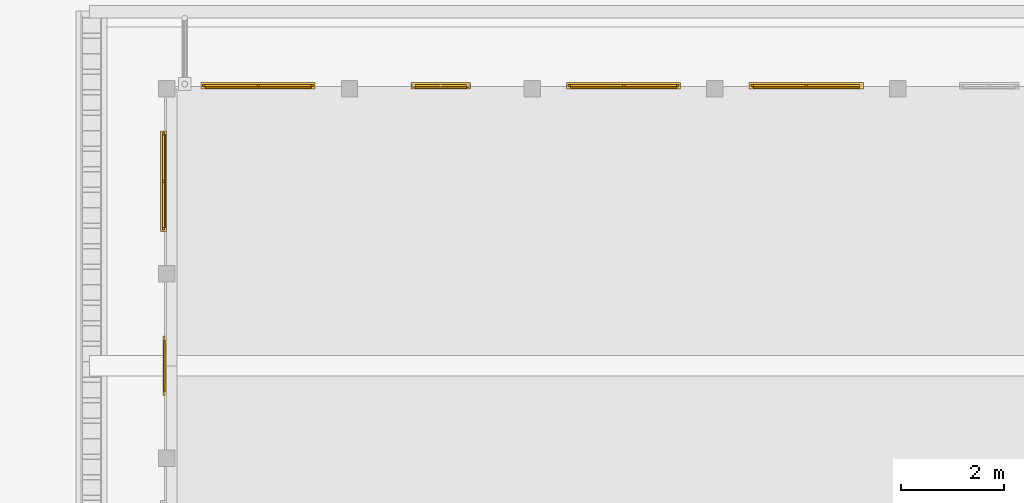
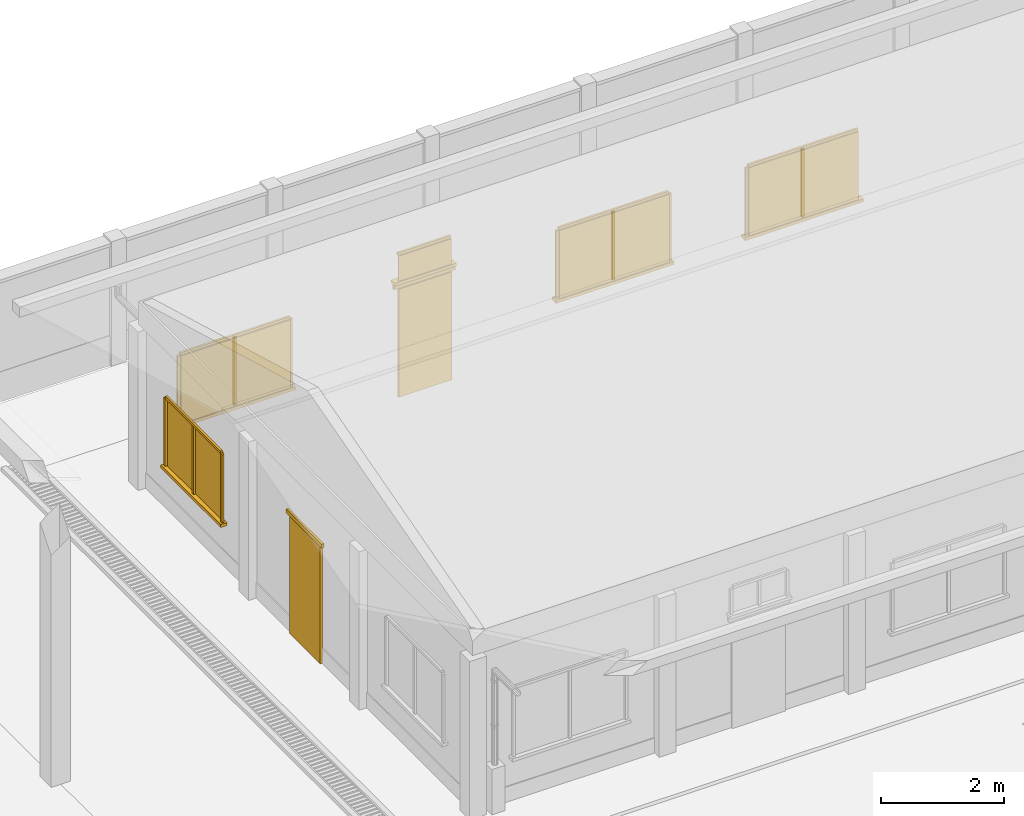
# One storey, part 62 of 166: 26 windows, 4 doors.
"""IFC2X3 building model written with IfcOpenShell, lengths in metres."""

from ifc_helpers import new_model, si_unit, origin, origin_with_axes, place, context, subcontext, project, spatial, faceted_brep, element, save


model = new_model("IFC2X3")

# Units and contexts
model_context = context("Model", 3, precision=1e-05, world=origin_with_axes())
body_context = subcontext(model_context, "Body", "Model", "MODEL_VIEW")
ifc_project = project(units=[si_unit("LENGTHUNIT", "METRE"), si_unit("AREAUNIT", "SQUARE_METRE"), si_unit("VOLUMEUNIT", "CUBIC_METRE"), si_unit("PLANEANGLEUNIT", "RADIAN")], contexts=[model_context])

# Site, building, storey
site_placement = place(None, origin_with_axes())
site = spatial("IfcSite", under=ifc_project, at=site_placement, Name="Predio Los Mangos - Morales, San Martín", CompositionType="ELEMENT")
building_placement = place(site_placement, origin())
building = spatial("IfcBuilding", under=site, at=building_placement, Name="Hogar de Refugio Temporal", CompositionType="ELEMENT")
storey_placement = place(building_placement, origin())
storey = spatial("IfcBuildingStorey", under=building, at=storey_placement, Name="NIVEL 1 (NPT +0.00)", CompositionType="ELEMENT", Elevation=0.0)

# Windows
window_1_placement = place(storey_placement, origin())
element("IfcWindow", 1, at=window_1_placement, inside=storey, Name="E-08_v0_vid", ObjectType="Ventana", context=body_context, shape_type="Brep", body=[
    faceted_brep([(32.7476, 127.82, 1.05), (32.7476, 127.84, 1.05), (34.8124, 127.84, 1.05), (34.8124, 127.82, 1.05), (32.7476, 127.82, 2.4), (34.8124, 127.82, 2.4), (34.8124, 127.84, 2.4), (32.7476, 127.84, 2.4)], [[[0, 1, 2, 3]], [[4, 5, 6, 7]], [[0, 3, 5, 4]], [[3, 2, 6, 5]], [[2, 1, 7, 6]], [[1, 0, 4, 7]]]),
])
window_2_placement = place(storey_placement, origin())
element("IfcWindow", 2, at=window_2_placement, inside=storey, Name="E-08_v0_m", ObjectType="Ventana", context=body_context, shape_type="Brep", body=[
    faceted_brep([(32.6976, 127.84, 1.05), (32.6976, 127.88, 1.05), (32.7476, 127.88, 1.05), (32.7476, 127.84, 1.05), (32.6976, 127.84, 2.4), (32.7476, 127.84, 2.4), (32.7476, 127.88, 2.4), (32.6976, 127.88, 2.4)], [[[0, 1, 2, 3]], [[4, 5, 6, 7]], [[0, 3, 5, 4]], [[3, 2, 6, 5]], [[2, 1, 7, 6]], [[1, 0, 4, 7]]]),
])
window_3_placement = place(storey_placement, origin())
element("IfcWindow", 3, at=window_3_placement, inside=storey, Name="E-08_v0_m", ObjectType="Ventana", context=body_context, shape_type="Brep", body=[
    faceted_brep([(34.8124, 127.84, 1.05), (34.8124, 127.88, 1.05), (34.8624, 127.88, 1.05), (34.8624, 127.84, 1.05), (34.8124, 127.84, 2.4), (34.8624, 127.84, 2.4), (34.8624, 127.88, 2.4), (34.8124, 127.88, 2.4)], [[[0, 1, 2, 3]], [[4, 5, 6, 7]], [[0, 3, 5, 4]], [[3, 2, 6, 5]], [[2, 1, 7, 6]], [[1, 0, 4, 7]]]),
])
window_4_placement = place(storey_placement, origin())
element("IfcWindow", 4, at=window_4_placement, inside=storey, Name="E-08_v0_m", ObjectType="Ventana", context=body_context, shape_type="Brep", body=[
    faceted_brep([(32.7476, 127.84, 2.4), (32.7476, 127.88, 2.4), (34.8124, 127.88, 2.4), (34.8124, 127.84, 2.4), (32.7476, 127.84, 2.45), (34.8124, 127.84, 2.45), (34.8124, 127.88, 2.45), (32.7476, 127.88, 2.45)], [[[0, 1, 2, 3]], [[4, 5, 6, 7]], [[0, 3, 5, 4]], [[3, 2, 6, 5]], [[2, 1, 7, 6]], [[1, 0, 4, 7]]]),
])
window_5_placement = place(storey_placement, origin())
element("IfcWindow", 5, at=window_5_placement, inside=storey, Name="E-08_v0_m", ObjectType="Ventana", context=body_context, shape_type="Brep", body=[
    faceted_brep([(33.755, 127.84, 1.05), (33.755, 127.88, 1.05), (33.805, 127.88, 1.05), (33.805, 127.84, 1.05), (33.755, 127.84, 2.4), (33.805, 127.84, 2.4), (33.805, 127.88, 2.4), (33.755, 127.88, 2.4)], [[[0, 1, 2, 3]], [[4, 5, 6, 7]], [[0, 3, 5, 4]], [[3, 2, 6, 5]], [[2, 1, 7, 6]], [[1, 0, 4, 7]]]),
])
window_6_placement = place(storey_placement, origin())
element("IfcWindow", 6, at=window_6_placement, inside=storey, Name="E-08_v0_alf", ObjectType="Ventana", context=body_context, shape_type="Brep", body=[
    faceted_brep([(32.6676, 127.8, 0.99), (32.6676, 127.92, 0.99), (34.8924, 127.92, 0.99), (34.8924, 127.8, 0.99), (32.6676, 127.8, 1.05), (34.8924, 127.8, 1.05), (34.8924, 127.92, 1.05), (32.6676, 127.92, 1.05)], [[[0, 1, 2, 3]], [[4, 5, 6, 7]], [[0, 3, 5, 4]], [[3, 2, 6, 5]], [[2, 1, 7, 6]], [[1, 0, 4, 7]]]),
])

# Doors
door_1_placement = place(storey_placement, origin())
element("IfcDoor", 7, at=door_1_placement, inside=storey, Name="E-08_p1", ObjectType="Puerta", context=body_context, shape_type="Brep", body=[
    faceted_brep([(36.84, 127.81, 0.15), (36.84, 127.85, 0.15), (37.84, 127.85, 0.15), (37.84, 127.81, 0.15), (36.84, 127.81, 2.3), (37.84, 127.81, 2.3), (37.84, 127.85, 2.3), (36.84, 127.85, 2.3)], [[[0, 1, 2, 3]], [[4, 5, 6, 7]], [[0, 3, 5, 4]], [[3, 2, 6, 5]], [[2, 1, 7, 6]], [[1, 0, 4, 7]]]),
])
door_2_placement = place(storey_placement, origin())
element("IfcDoor", 8, at=door_2_placement, inside=storey, Name="E-08_p1_marco", ObjectType="Puerta", context=body_context, shape_type="Brep", body=[
    faceted_brep([(36.76, 127.83, 2.3), (36.76, 127.87, 2.3), (37.92, 127.87, 2.3), (37.92, 127.83, 2.3), (36.76, 127.83, 2.38), (37.92, 127.83, 2.38), (37.92, 127.87, 2.38), (36.76, 127.87, 2.38)], [[[0, 1, 2, 3]], [[4, 5, 6, 7]], [[0, 3, 5, 4]], [[3, 2, 6, 5]], [[2, 1, 7, 6]], [[1, 0, 4, 7]]]),
])

# Windows
window_7_placement = place(storey_placement, origin())
element("IfcWindow", 9, at=window_7_placement, inside=storey, Name="E-08_vt1_vid", ObjectType="Ventana", context=body_context, shape_type="Brep", body=[
    faceted_brep([(36.84, 127.82, 2.45), (36.84, 127.84, 2.45), (37.84, 127.84, 2.45), (37.84, 127.82, 2.45), (36.84, 127.82, 2.95), (37.84, 127.82, 2.95), (37.84, 127.84, 2.95), (36.84, 127.84, 2.95)], [[[0, 1, 2, 3]], [[4, 5, 6, 7]], [[0, 3, 5, 4]], [[3, 2, 6, 5]], [[2, 1, 7, 6]], [[1, 0, 4, 7]]]),
])
window_8_placement = place(storey_placement, origin())
element("IfcWindow", 10, at=window_8_placement, inside=storey, Name="E-08_vt1_m", ObjectType="Ventana", context=body_context, shape_type="Brep", body=[
    faceted_brep([(36.84, 127.84, 2.95), (36.84, 127.88, 2.95), (37.84, 127.88, 2.95), (37.84, 127.84, 2.95), (36.84, 127.84, 3.0), (37.84, 127.84, 3.0), (37.84, 127.88, 3.0), (36.84, 127.88, 3.0)], [[[0, 1, 2, 3]], [[4, 5, 6, 7]], [[0, 3, 5, 4]], [[3, 2, 6, 5]], [[2, 1, 7, 6]], [[1, 0, 4, 7]]]),
])
window_9_placement = place(storey_placement, origin())
element("IfcWindow", 11, at=window_9_placement, inside=storey, Name="E-08_vt1_alf", ObjectType="Ventana", context=body_context, shape_type="Brep", body=[
    faceted_brep([(36.76, 127.8, 2.39), (36.76, 127.92, 2.39), (37.92, 127.92, 2.39), (37.92, 127.8, 2.39), (36.76, 127.8, 2.45), (37.92, 127.8, 2.45), (37.92, 127.92, 2.45), (36.76, 127.92, 2.45)], [[[0, 1, 2, 3]], [[4, 5, 6, 7]], [[0, 3, 5, 4]], [[3, 2, 6, 5]], [[2, 1, 7, 6]], [[1, 0, 4, 7]]]),
])
window_10_placement = place(storey_placement, origin())
element("IfcWindow", 12, at=window_10_placement, inside=storey, Name="E-08_v2_vid", ObjectType="Ventana", context=body_context, shape_type="Brep", body=[
    faceted_brep([(39.8676, 127.82, 1.05), (39.8676, 127.84, 1.05), (41.9324, 127.84, 1.05), (41.9324, 127.82, 1.05), (39.8676, 127.82, 2.4), (41.9324, 127.82, 2.4), (41.9324, 127.84, 2.4), (39.8676, 127.84, 2.4)], [[[0, 1, 2, 3]], [[4, 5, 6, 7]], [[0, 3, 5, 4]], [[3, 2, 6, 5]], [[2, 1, 7, 6]], [[1, 0, 4, 7]]]),
])
window_11_placement = place(storey_placement, origin())
element("IfcWindow", 13, at=window_11_placement, inside=storey, Name="E-08_v2_m", ObjectType="Ventana", context=body_context, shape_type="Brep", body=[
    faceted_brep([(39.8176, 127.84, 1.05), (39.8176, 127.88, 1.05), (39.8676, 127.88, 1.05), (39.8676, 127.84, 1.05), (39.8176, 127.84, 2.4), (39.8676, 127.84, 2.4), (39.8676, 127.88, 2.4), (39.8176, 127.88, 2.4)], [[[0, 1, 2, 3]], [[4, 5, 6, 7]], [[0, 3, 5, 4]], [[3, 2, 6, 5]], [[2, 1, 7, 6]], [[1, 0, 4, 7]]]),
])
window_12_placement = place(storey_placement, origin())
element("IfcWindow", 14, at=window_12_placement, inside=storey, Name="E-08_v2_m", ObjectType="Ventana", context=body_context, shape_type="Brep", body=[
    faceted_brep([(41.9324, 127.84, 1.05), (41.9324, 127.88, 1.05), (41.9824, 127.88, 1.05), (41.9824, 127.84, 1.05), (41.9324, 127.84, 2.4), (41.9824, 127.84, 2.4), (41.9824, 127.88, 2.4), (41.9324, 127.88, 2.4)], [[[0, 1, 2, 3]], [[4, 5, 6, 7]], [[0, 3, 5, 4]], [[3, 2, 6, 5]], [[2, 1, 7, 6]], [[1, 0, 4, 7]]]),
])
window_13_placement = place(storey_placement, origin())
element("IfcWindow", 15, at=window_13_placement, inside=storey, Name="E-08_v2_m", ObjectType="Ventana", context=body_context, shape_type="Brep", body=[
    faceted_brep([(39.8676, 127.84, 2.4), (39.8676, 127.88, 2.4), (41.9324, 127.88, 2.4), (41.9324, 127.84, 2.4), (39.8676, 127.84, 2.45), (41.9324, 127.84, 2.45), (41.9324, 127.88, 2.45), (39.8676, 127.88, 2.45)], [[[0, 1, 2, 3]], [[4, 5, 6, 7]], [[0, 3, 5, 4]], [[3, 2, 6, 5]], [[2, 1, 7, 6]], [[1, 0, 4, 7]]]),
])
window_14_placement = place(storey_placement, origin())
element("IfcWindow", 16, at=window_14_placement, inside=storey, Name="E-08_v2_m", ObjectType="Ventana", context=body_context, shape_type="Brep", body=[
    faceted_brep([(40.875, 127.84, 1.05), (40.875, 127.88, 1.05), (40.925, 127.88, 1.05), (40.925, 127.84, 1.05), (40.875, 127.84, 2.4), (40.925, 127.84, 2.4), (40.925, 127.88, 2.4), (40.875, 127.88, 2.4)], [[[0, 1, 2, 3]], [[4, 5, 6, 7]], [[0, 3, 5, 4]], [[3, 2, 6, 5]], [[2, 1, 7, 6]], [[1, 0, 4, 7]]]),
])
window_15_placement = place(storey_placement, origin())
element("IfcWindow", 17, at=window_15_placement, inside=storey, Name="E-08_v2_alf", ObjectType="Ventana", context=body_context, shape_type="Brep", body=[
    faceted_brep([(39.7876, 127.8, 0.99), (39.7876, 127.92, 0.99), (42.0124, 127.92, 0.99), (42.0124, 127.8, 0.99), (39.7876, 127.8, 1.05), (42.0124, 127.8, 1.05), (42.0124, 127.92, 1.05), (39.7876, 127.92, 1.05)], [[[0, 1, 2, 3]], [[4, 5, 6, 7]], [[0, 3, 5, 4]], [[3, 2, 6, 5]], [[2, 1, 7, 6]], [[1, 0, 4, 7]]]),
])
window_16_placement = place(storey_placement, origin())
element("IfcWindow", 18, at=window_16_placement, inside=storey, Name="E-08_v3_vid", ObjectType="Ventana", context=body_context, shape_type="Brep", body=[
    faceted_brep([(43.4276, 127.82, 1.05), (43.4276, 127.84, 1.05), (45.4924, 127.84, 1.05), (45.4924, 127.82, 1.05), (43.4276, 127.82, 2.4), (45.4924, 127.82, 2.4), (45.4924, 127.84, 2.4), (43.4276, 127.84, 2.4)], [[[0, 1, 2, 3]], [[4, 5, 6, 7]], [[0, 3, 5, 4]], [[3, 2, 6, 5]], [[2, 1, 7, 6]], [[1, 0, 4, 7]]]),
])
window_17_placement = place(storey_placement, origin())
element("IfcWindow", 19, at=window_17_placement, inside=storey, Name="E-08_v3_m", ObjectType="Ventana", context=body_context, shape_type="Brep", body=[
    faceted_brep([(43.3776, 127.84, 1.05), (43.3776, 127.88, 1.05), (43.4276, 127.88, 1.05), (43.4276, 127.84, 1.05), (43.3776, 127.84, 2.4), (43.4276, 127.84, 2.4), (43.4276, 127.88, 2.4), (43.3776, 127.88, 2.4)], [[[0, 1, 2, 3]], [[4, 5, 6, 7]], [[0, 3, 5, 4]], [[3, 2, 6, 5]], [[2, 1, 7, 6]], [[1, 0, 4, 7]]]),
])
window_18_placement = place(storey_placement, origin())
element("IfcWindow", 20, at=window_18_placement, inside=storey, Name="E-08_v3_m", ObjectType="Ventana", context=body_context, shape_type="Brep", body=[
    faceted_brep([(43.4276, 127.84, 2.4), (43.4276, 127.88, 2.4), (45.4924, 127.88, 2.4), (45.4924, 127.84, 2.4), (43.4276, 127.84, 2.45), (45.4924, 127.84, 2.45), (45.4924, 127.88, 2.45), (43.4276, 127.88, 2.45)], [[[0, 1, 2, 3]], [[4, 5, 6, 7]], [[0, 3, 5, 4]], [[3, 2, 6, 5]], [[2, 1, 7, 6]], [[1, 0, 4, 7]]]),
])
window_19_placement = place(storey_placement, origin())
element("IfcWindow", 21, at=window_19_placement, inside=storey, Name="E-08_v3_m", ObjectType="Ventana", context=body_context, shape_type="Brep", body=[
    faceted_brep([(44.435, 127.84, 1.05), (44.435, 127.88, 1.05), (44.485, 127.88, 1.05), (44.485, 127.84, 1.05), (44.435, 127.84, 2.4), (44.485, 127.84, 2.4), (44.485, 127.88, 2.4), (44.435, 127.88, 2.4)], [[[0, 1, 2, 3]], [[4, 5, 6, 7]], [[0, 3, 5, 4]], [[3, 2, 6, 5]], [[2, 1, 7, 6]], [[1, 0, 4, 7]]]),
])
window_20_placement = place(storey_placement, origin())
element("IfcWindow", 22, at=window_20_placement, inside=storey, Name="E-08_v3_alf", ObjectType="Ventana", context=body_context, shape_type="Brep", body=[
    faceted_brep([(43.3476, 127.8, 0.99), (43.3476, 127.92, 0.99), (45.5724, 127.92, 0.99), (45.5724, 127.8, 0.99), (43.3476, 127.8, 1.05), (45.5724, 127.8, 1.05), (45.5724, 127.92, 1.05), (43.3476, 127.92, 1.05)], [[[0, 1, 2, 3]], [[4, 5, 6, 7]], [[0, 3, 5, 4]], [[3, 2, 6, 5]], [[2, 1, 7, 6]], [[1, 0, 4, 7]]]),
])

# Doors
door_3_placement = place(storey_placement, origin())
element("IfcDoor", 23, at=door_3_placement, inside=storey, Name="E-08_pp", ObjectType="Puerta", context=body_context, shape_type="Brep", body=[
    faceted_brep([(31.95, 121.9, 0.15), (31.95, 122.9, 0.15), (31.99, 122.9, 0.15), (31.99, 121.9, 0.15), (31.95, 121.9, 2.5), (31.99, 121.9, 2.5), (31.99, 122.9, 2.5), (31.95, 122.9, 2.5)], [[[0, 1, 2, 3]], [[4, 5, 6, 7]], [[0, 3, 5, 4]], [[3, 2, 6, 5]], [[2, 1, 7, 6]], [[1, 0, 4, 7]]]),
])
door_4_placement = place(storey_placement, origin())
element("IfcDoor", 24, at=door_4_placement, inside=storey, Name="E-08_pp_marco", ObjectType="Puerta", context=body_context, shape_type="Brep", body=[
    faceted_brep([(31.93, 121.82, 2.5), (31.93, 122.98, 2.5), (31.97, 122.98, 2.5), (31.97, 121.82, 2.5), (31.93, 121.82, 2.58), (31.97, 121.82, 2.58), (31.97, 122.98, 2.58), (31.93, 122.98, 2.58)], [[[0, 1, 2, 3]], [[4, 5, 6, 7]], [[0, 3, 5, 4]], [[3, 2, 6, 5]], [[2, 1, 7, 6]], [[1, 0, 4, 7]]]),
])

# Windows
window_21_placement = place(storey_placement, origin())
element("IfcWindow", 25, at=window_21_placement, inside=storey, Name="E-08_vg2_vid", ObjectType="Ventana", context=body_context, shape_type="Brep", body=[
    faceted_brep([(31.96, 125.1, 1.05), (31.96, 126.9, 1.05), (31.98, 126.9, 1.05), (31.98, 125.1, 1.05), (31.96, 125.1, 2.4), (31.98, 125.1, 2.4), (31.98, 126.9, 2.4), (31.96, 126.9, 2.4)], [[[0, 1, 2, 3]], [[4, 5, 6, 7]], [[0, 3, 5, 4]], [[3, 2, 6, 5]], [[2, 1, 7, 6]], [[1, 0, 4, 7]]]),
])
window_22_placement = place(storey_placement, origin())
element("IfcWindow", 26, at=window_22_placement, inside=storey, Name="E-08_vg2_m", ObjectType="Ventana", context=body_context, shape_type="Brep", body=[
    faceted_brep([(31.92, 125.05, 1.05), (31.92, 125.1, 1.05), (31.96, 125.1, 1.05), (31.96, 125.05, 1.05), (31.92, 125.05, 2.4), (31.96, 125.05, 2.4), (31.96, 125.1, 2.4), (31.92, 125.1, 2.4)], [[[0, 1, 2, 3]], [[4, 5, 6, 7]], [[0, 3, 5, 4]], [[3, 2, 6, 5]], [[2, 1, 7, 6]], [[1, 0, 4, 7]]]),
])
window_23_placement = place(storey_placement, origin())
element("IfcWindow", 27, at=window_23_placement, inside=storey, Name="E-08_vg2_m", ObjectType="Ventana", context=body_context, shape_type="Brep", body=[
    faceted_brep([(31.92, 126.9, 1.05), (31.92, 126.95, 1.05), (31.96, 126.95, 1.05), (31.96, 126.9, 1.05), (31.92, 126.9, 2.4), (31.96, 126.9, 2.4), (31.96, 126.95, 2.4), (31.92, 126.95, 2.4)], [[[0, 1, 2, 3]], [[4, 5, 6, 7]], [[0, 3, 5, 4]], [[3, 2, 6, 5]], [[2, 1, 7, 6]], [[1, 0, 4, 7]]]),
])
window_24_placement = place(storey_placement, origin())
element("IfcWindow", 28, at=window_24_placement, inside=storey, Name="E-08_vg2_m", ObjectType="Ventana", context=body_context, shape_type="Brep", body=[
    faceted_brep([(31.92, 125.1, 2.4), (31.92, 126.9, 2.4), (31.96, 126.9, 2.4), (31.96, 125.1, 2.4), (31.92, 125.1, 2.45), (31.96, 125.1, 2.45), (31.96, 126.9, 2.45), (31.92, 126.9, 2.45)], [[[0, 1, 2, 3]], [[4, 5, 6, 7]], [[0, 3, 5, 4]], [[3, 2, 6, 5]], [[2, 1, 7, 6]], [[1, 0, 4, 7]]]),
])
window_25_placement = place(storey_placement, origin())
element("IfcWindow", 29, at=window_25_placement, inside=storey, Name="E-08_vg2_m", ObjectType="Ventana", context=body_context, shape_type="Brep", body=[
    faceted_brep([(31.92, 125.975, 1.05), (31.92, 126.025, 1.05), (31.96, 126.025, 1.05), (31.96, 125.975, 1.05), (31.92, 125.975, 2.4), (31.96, 125.975, 2.4), (31.96, 126.025, 2.4), (31.92, 126.025, 2.4)], [[[0, 1, 2, 3]], [[4, 5, 6, 7]], [[0, 3, 5, 4]], [[3, 2, 6, 5]], [[2, 1, 7, 6]], [[1, 0, 4, 7]]]),
])
window_26_placement = place(storey_placement, origin())
element("IfcWindow", 30, at=window_26_placement, inside=storey, Name="E-08_vg2_alf", ObjectType="Ventana", context=body_context, shape_type="Brep", body=[
    faceted_brep([(32.0, 125.02, 0.99), (32.0, 126.98, 0.99), (31.88, 126.98, 0.99), (31.88, 125.02, 0.99), (32.0, 125.02, 1.05), (31.88, 125.02, 1.05), (31.88, 126.98, 1.05), (32.0, 126.98, 1.05)], [[[0, 1, 2, 3]], [[4, 5, 6, 7]], [[0, 3, 5, 4]], [[3, 2, 6, 5]], [[2, 1, 7, 6]], [[1, 0, 4, 7]]]),
])

save(model, "model.ifc")
